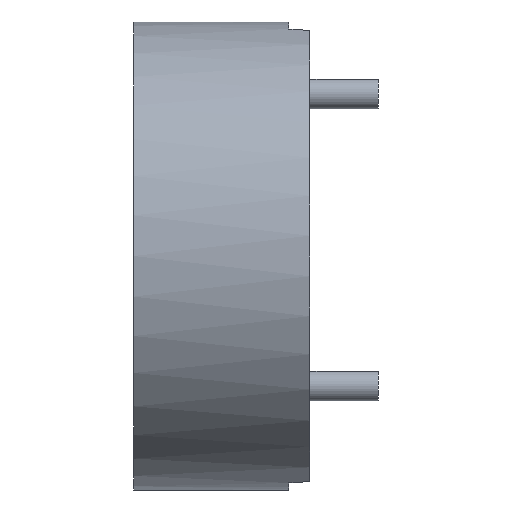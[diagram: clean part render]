
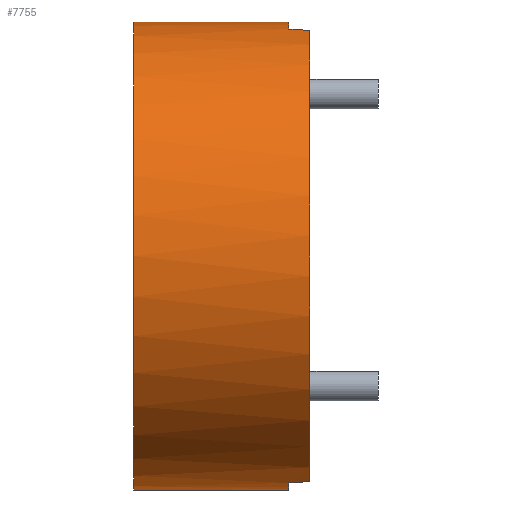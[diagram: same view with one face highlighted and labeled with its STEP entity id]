
A CAD part, left-side view. The second image highlights one B-rep face of the part: STEP entity #7755.
In plain terms, the highlighted cylindrical face has radius 14.287 mm (diameter 28.575 mm), a partial arc.
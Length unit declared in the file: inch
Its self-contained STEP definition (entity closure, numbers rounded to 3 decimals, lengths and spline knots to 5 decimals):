
#50 = DIRECTION ( 'NONE',  ( 0., 0., 1. ) ) ;
#286 = ORIENTED_EDGE ( 'NONE', *, *, #5039, .T. ) ;
#297 = EDGE_CURVE ( 'NONE', #9432, #9721, #7064, .T. ) ;
#302 = CIRCLE ( 'NONE', #951, 0.5625 ) ;
#414 = EDGE_LOOP ( 'NONE', ( #7926, #4096, #5275, #1831, #286, #9444, #4645, #646 ) ) ;
#477 = CIRCLE ( 'NONE', #6067, 0.5625 ) ;
#611 = CARTESIAN_POINT ( 'NONE',  ( 0., 0.2115, 0.5625 ) ) ;
#646 = ORIENTED_EDGE ( 'NONE', *, *, #3926, .T. ) ;
#885 = CARTESIAN_POINT ( 'NONE',  ( -0.1366, -0.1615, 0.54566 ) ) ;
#951 = AXIS2_PLACEMENT_3D ( 'NONE', #2124, #8173, #1337 ) ;
#1154 = EDGE_CURVE ( 'NONE', #8949, #5263, #302, .T. ) ;
#1177 = CARTESIAN_POINT ( 'NONE',  ( 0., 0.2115, -0.5625 ) ) ;
#1337 = DIRECTION ( 'NONE',  ( 0., 0., 1. ) ) ;
#1365 = CARTESIAN_POINT ( 'NONE',  ( -0.14555, -0.19489, -0.54336 ) ) ;
#1454 = CARTESIAN_POINT ( 'NONE',  ( -0.15, -0.2115, -0.54213 ) ) ;
#1544 = CARTESIAN_POINT ( 'NONE',  ( -0.14555, -0.19489, 0.54336 ) ) ;
#1831 = ORIENTED_EDGE ( 'NONE', *, *, #2261, .T. ) ;
#2071 = DIRECTION ( 'NONE',  ( 0., -1., 0. ) ) ;
#2124 = CARTESIAN_POINT ( 'NONE',  ( 0., -0.2115, 0. ) ) ;
#2251 = CIRCLE ( 'NONE', #4144, 0.5625 ) ;
#2261 = EDGE_CURVE ( 'NONE', #4425, #3145, #477, .T. ) ;
#2406 = CARTESIAN_POINT ( 'NONE',  ( 0., 0.2115, 0. ) ) ;
#2414 = DIRECTION ( 'NONE',  ( 0., -1., 0. ) ) ;
#2804 = DIRECTION ( 'NONE',  ( 0., 0., -1. ) ) ;
#2859 = CARTESIAN_POINT ( 'NONE',  ( 0., -0.1615, 0. ) ) ;
#2895 = CARTESIAN_POINT ( 'NONE',  ( -0.14108, -0.17822, -0.54454 ) ) ;
#2984 = CARTESIAN_POINT ( 'NONE',  ( 0., 0.2115, -0.5625 ) ) ;
#3145 = VERTEX_POINT ( 'NONE', #7948 ) ;
#3481 = VERTEX_POINT ( 'NONE', #2984 ) ;
#3912 = CARTESIAN_POINT ( 'NONE',  ( 0., 0.2115, 0.5625 ) ) ;
#3926 = EDGE_CURVE ( 'NONE', #9829, #9721, #2251, .T. ) ;
#4004 = DIRECTION ( 'NONE',  ( 0., 1., 0. ) ) ;
#4096 = ORIENTED_EDGE ( 'NONE', *, *, #8803, .F. ) ;
#4144 = AXIS2_PLACEMENT_3D ( 'NONE', #6246, #4592, #50 ) ;
#4394 = CARTESIAN_POINT ( 'NONE',  ( -0.1366, -0.1615, -0.54566 ) ) ;
#4417 = LINE ( 'NONE', #1177, #4481 ) ;
#4425 = VERTEX_POINT ( 'NONE', #7231 ) ;
#4481 = VECTOR ( 'NONE', #2071, 39.37008 ) ;
#4526 = AXIS2_PLACEMENT_3D ( 'NONE', #2406, #4004, #7804 ) ;
#4574 = CARTESIAN_POINT ( 'NONE',  ( -0.14108, -0.17822, 0.54454 ) ) ;
#4592 = DIRECTION ( 'NONE',  ( 0., 1., 0. ) ) ;
#4645 = ORIENTED_EDGE ( 'NONE', *, *, #7301, .T. ) ;
#5013 = CARTESIAN_POINT ( 'NONE',  ( -0.1366, -0.1615, 0.54566 ) ) ;
#5039 = EDGE_CURVE ( 'NONE', #3145, #8949, #6909, .T. ) ;
#5098 = DIRECTION ( 'NONE',  ( 0., -1., 0. ) ) ;
#5263 = VERTEX_POINT ( 'NONE', #7232 ) ;
#5275 = ORIENTED_EDGE ( 'NONE', *, *, #5616, .T. ) ;
#5616 = EDGE_CURVE ( 'NONE', #3481, #4425, #4417, .T. ) ;
#5960 = CARTESIAN_POINT ( 'NONE',  ( 0., 0.2115, 0. ) ) ;
#6056 = VECTOR ( 'NONE', #2414, 39.37008 ) ;
#6067 = AXIS2_PLACEMENT_3D ( 'NONE', #2859, #6726, #7520 ) ;
#6246 = CARTESIAN_POINT ( 'NONE',  ( 0., -0.1615, 0. ) ) ;
#6603 = CARTESIAN_POINT ( 'NONE',  ( -0.15, -0.2115, -0.54213 ) ) ;
#6610 = FACE_OUTER_BOUND ( 'NONE', #414, .T. ) ;
#6726 = DIRECTION ( 'NONE',  ( 0., 1., 0. ) ) ;
#6909 =( BOUNDED_CURVE ( )  B_SPLINE_CURVE ( 3, ( #4394, #2895, #1365, #6603 ),
 .UNSPECIFIED., .F., .F. ) 
 B_SPLINE_CURVE_WITH_KNOTS ( ( 4, 4 ),
 ( 4.95769, 4.98232 ),
 .UNSPECIFIED. ) 
 CURVE ( )  GEOMETRIC_REPRESENTATION_ITEM ( )  RATIONAL_B_SPLINE_CURVE ( ( 1., 1., 1., 1. ) ) 
 REPRESENTATION_ITEM ( '' )  );
#7054 = AXIS2_PLACEMENT_3D ( 'NONE', #5960, #5098, #2804 ) ;
#7064 = LINE ( 'NONE', #3912, #6056 ) ;
#7231 = CARTESIAN_POINT ( 'NONE',  ( 0., -0.1615, -0.5625 ) ) ;
#7232 = CARTESIAN_POINT ( 'NONE',  ( -0.15, -0.2115, 0.54213 ) ) ;
#7301 = EDGE_CURVE ( 'NONE', #5263, #9829, #7918, .T. ) ;
#7520 = DIRECTION ( 'NONE',  ( 0., 0., 1. ) ) ;
#7755 = ADVANCED_FACE ( 'NONE', ( #6610 ), #9690, .T. ) ;
#7804 = DIRECTION ( 'NONE',  ( 0., 0., 1. ) ) ;
#7918 =( BOUNDED_CURVE ( )  B_SPLINE_CURVE ( 3, ( #9114, #1544, #4574, #885 ),
 .UNSPECIFIED., .F., .F. ) 
 B_SPLINE_CURVE_WITH_KNOTS ( ( 4, 4 ),
 ( 1.30086, 1.32549 ),
 .UNSPECIFIED. ) 
 CURVE ( )  GEOMETRIC_REPRESENTATION_ITEM ( )  RATIONAL_B_SPLINE_CURVE ( ( 1., 1., 1., 1. ) ) 
 REPRESENTATION_ITEM ( '' )  );
#7926 = ORIENTED_EDGE ( 'NONE', *, *, #297, .F. ) ;
#7948 = CARTESIAN_POINT ( 'NONE',  ( -0.1366, -0.1615, -0.54566 ) ) ;
#8173 = DIRECTION ( 'NONE',  ( 0., 1., 0. ) ) ;
#8803 = EDGE_CURVE ( 'NONE', #3481, #9432, #8828, .T. ) ;
#8828 = CIRCLE ( 'NONE', #4526, 0.5625 ) ;
#8949 = VERTEX_POINT ( 'NONE', #1454 ) ;
#9114 = CARTESIAN_POINT ( 'NONE',  ( -0.15, -0.2115, 0.54213 ) ) ;
#9396 = CARTESIAN_POINT ( 'NONE',  ( 0., -0.1615, 0.5625 ) ) ;
#9432 = VERTEX_POINT ( 'NONE', #611 ) ;
#9444 = ORIENTED_EDGE ( 'NONE', *, *, #1154, .T. ) ;
#9690 = CYLINDRICAL_SURFACE ( 'NONE', #7054, 0.5625 ) ;
#9721 = VERTEX_POINT ( 'NONE', #9396 ) ;
#9829 = VERTEX_POINT ( 'NONE', #5013 ) ;
